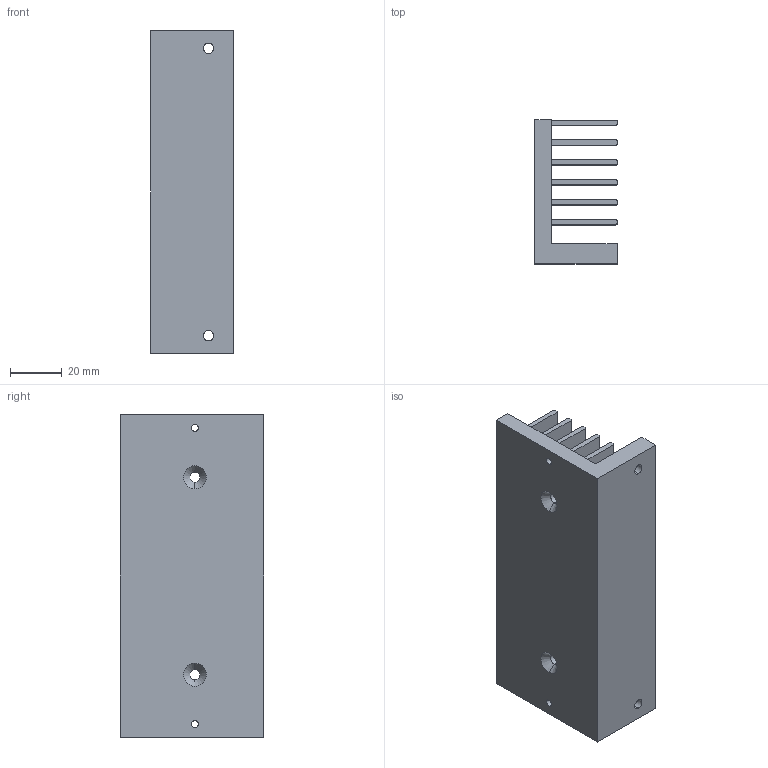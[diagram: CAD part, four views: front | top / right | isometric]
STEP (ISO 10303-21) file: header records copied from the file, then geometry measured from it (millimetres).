
FILE_DESCRIPTION (( 'STEP AP203' ), '1' );
FILE_NAME ('XSJ-HK.STEP', '2009-09-18T16:19:37', ( 'copley employee' ), ( 'copley controls' ), 'SwSTEP 2.0', 'SolidWorks 2009', '' );
FILE_SCHEMA (( 'CONFIG_CONTROL_DESIGN' ));
Length unit declared in the file: inch
Products named in the file (1): XSJ-HK
Bounding box: 31.75 x 55.37 x 124.46 mm (x, y, z)
Volume: 98221.4 mm3; surface area: 54705.5 mm2
Topology: 1 solids, 1 shells, 67 faces, 182 edges, 120 vertices
Faces by surface type: plane 39, cylinder 24, cone 4
Entity records: 2243 total; most frequent: CARTESIAN_POINT 396, DIRECTION 370, ORIENTED_EDGE 364, EDGE_CURVE 182, VECTOR 126, LINE 126, AXIS2_PLACEMENT_3D 122, VERTEX_POINT 120
